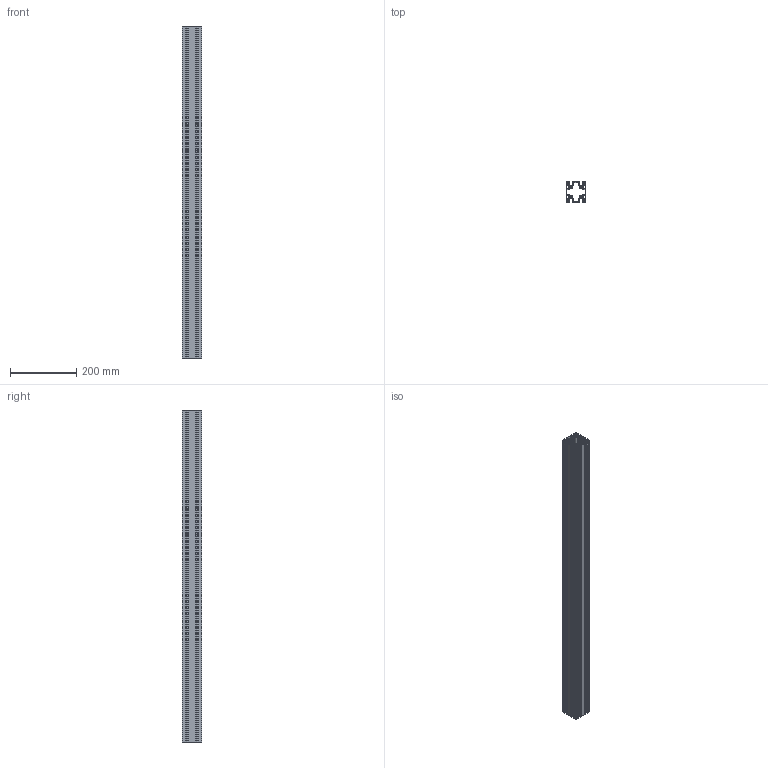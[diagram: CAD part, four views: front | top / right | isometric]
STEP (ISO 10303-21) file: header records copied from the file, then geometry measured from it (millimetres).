
FILE_DESCRIPTION((''),'2;1');
FILE_NAME('\\Dtp_2\share\iriguchi2\M6フレーム\AFS-6060F-6.stp','2014-12-01T10:17:01',('AMS8'),(''),'Autodesk Inventor 2008','Autodesk Inventor 2008','');
FILE_SCHEMA(('AUTOMOTIVE_DESIGN { 1 0 10303 214 1 1 1 1 }'));
Length unit declared in the file: millimetre
Products named in the file (1): Part9
Bounding box: 60 x 60 x 1000 mm (x, y, z)
Volume: 696881.4 mm3; surface area: 909412.2 mm2
Topology: 1 solids, 1 shells, 534 faces, 1596 edges, 1064 vertices
Faces by surface type: cylinder 292, plane 242
Full cylindrical faces by diameter (mm): 5 x4
Entity records: 18206 total; most frequent: DIRECTION 3246, CARTESIAN_POINT 3191, ORIENTED_EDGE 3184, EDGE_CURVE 1592, AXIS2_PLACEMENT_3D 1119, VERTEX_POINT 1064, VECTOR 1008, LINE 1008
